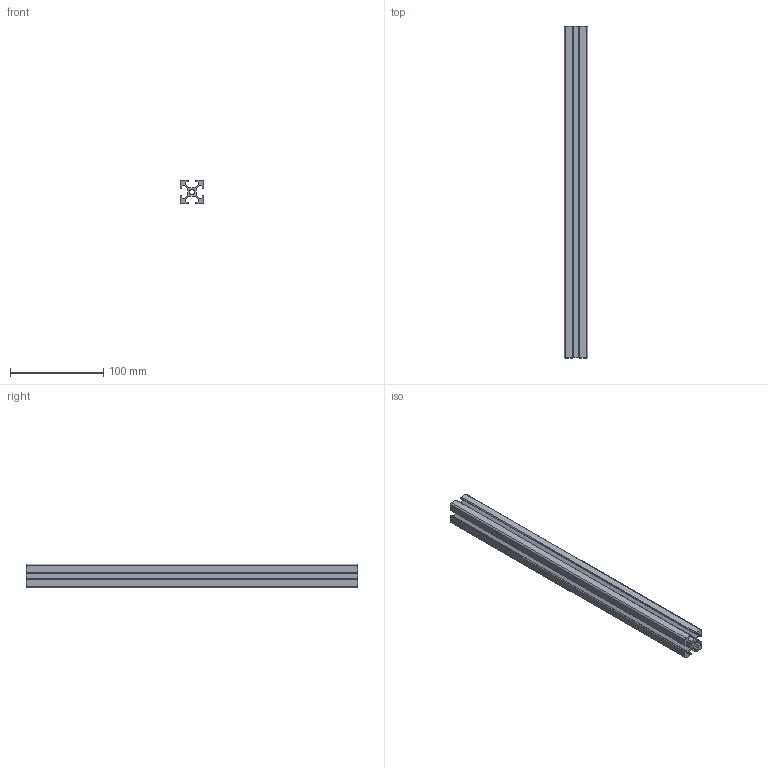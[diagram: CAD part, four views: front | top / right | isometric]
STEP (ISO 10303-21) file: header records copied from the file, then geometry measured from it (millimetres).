
FILE_DESCRIPTION(/* description */ ('STEP AP242','CAx-IF Rec.Pracs.---Representation and Presentation of Product Manufacturing Information (PMI)---4.0---2014-10-13','CAx-IF Rec.Pracs.---3D Tessellated Geometry---0.4---2014-09-14','2;1'),/* implementation_level */ '2;1');
FILE_NAME(/* name */ '629384fbbc208d7d79ac906e',/* time_stamp */ '2022-05-29T14:36:44+00:00',/* author */ (''),/* organization */ (''),/* preprocessor_version */ 'ST-DEVELOPER v18.102',/* originating_system */ ' ',/* authorisation */ ' ');
FILE_SCHEMA (('AP242_MANAGED_MODEL_BASED_3D_ENGINEERING_MIM_LF { 1 0 10303 442 1 1 4 }'));
Length unit declared in the file: metre
Products named in the file (1): Part 1
Bounding box: 25.4 x 355.6 x 25.4 mm (x, y, z)
Volume: 95421.5 mm3; surface area: 77412.4 mm2
Topology: 1 solids, 1 shells, 83 faces, 243 edges, 162 vertices
Faces by surface type: cylinder 45, plane 38
Full cylindrical faces by diameter (mm): 5.207 x1
Entity records: 2808 total; most frequent: DIRECTION 500, CARTESIAN_POINT 488, ORIENTED_EDGE 484, EDGE_CURVE 242, AXIS2_PLACEMENT_3D 174, VERTEX_POINT 162, LINE 152, VECTOR 152
